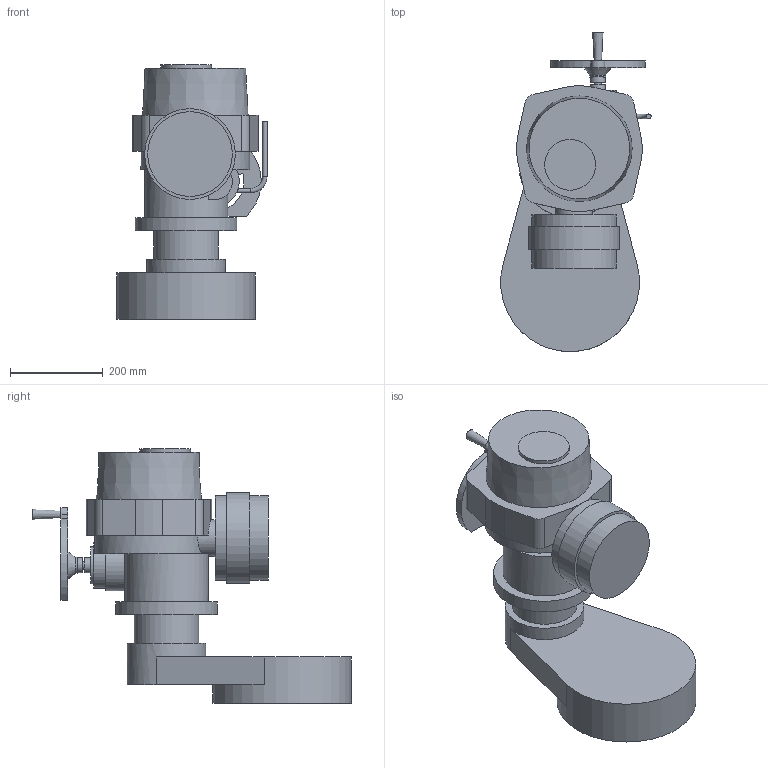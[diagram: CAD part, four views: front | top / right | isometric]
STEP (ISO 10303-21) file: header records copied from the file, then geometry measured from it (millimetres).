
FILE_DESCRIPTION(('STEP AP203'), '1');
FILE_NAME('Ýëåêòðîïðèâîä QT.A 400 ñ ïîçèöèîíåðîì', '', ('UNSPECIFIED'), ('UNSPECIFIED'), 'ASCON STEP Converter 1.6', 'ASCON Math Kernel', '');
FILE_SCHEMA(('CONFIG_CONTROL_DESIGN'));
Length unit declared in the file: millimetre
Bounding box: 324.45 x 688.45 x 550 mm (x, y, z)
Volume: 29651310.5 mm3; surface area: 998256.2 mm2
Topology: 1 solids, 1 shells, 126 faces, 267 edges, 176 vertices
Faces by surface type: plane 67, cylinder 55, cone 3, torus 1
Full cylindrical faces by diameter (mm): 10 x2, 14 x12, 16 x1, 17.5 x4, 32 x2, 35 x1, 60 x1, 80 x2, 100 x1, 110 x1, 140 x1, 170 x1, 180 x1, 183 x2, 196 x1, 220 x1, 300 x1
Entity records: 5003 total; most frequent: CARTESIAN_POINT 1266, DIRECTION 595, ORIENTED_EDGE 456, AXIS2_PLACEMENT_3D 252, EDGE_CURVE 228, EDGE_LOOP 204, VERTEX_POINT 176, FACE_BOUND 131
